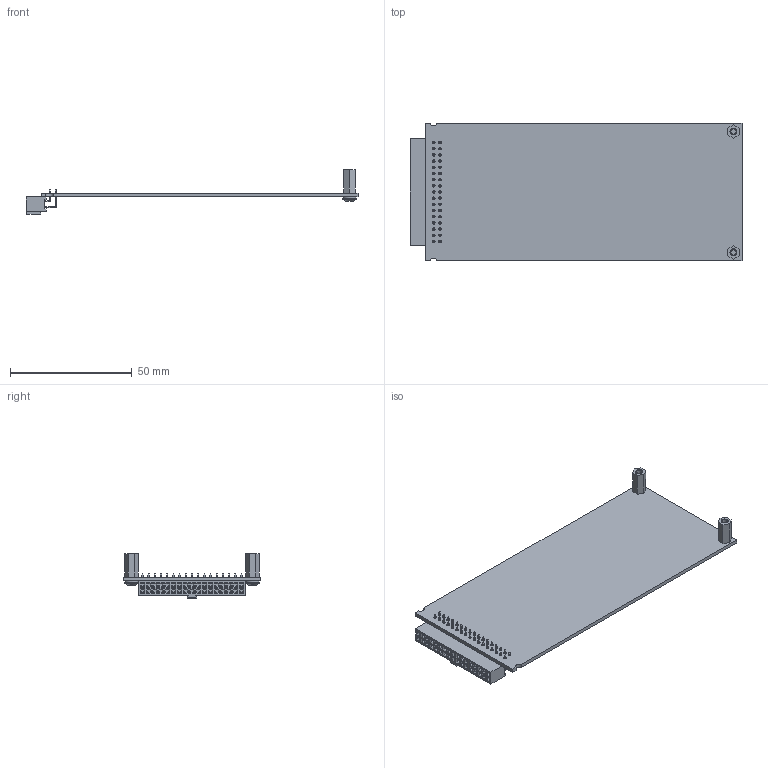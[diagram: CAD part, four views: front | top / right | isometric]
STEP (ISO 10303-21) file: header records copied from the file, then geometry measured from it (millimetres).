
FILE_DESCRIPTION((''),'2;1');
FILE_NAME('CCA_MXP_MINI_01_ASM','2016-08-01T',('llai'),(''),'CREO PARAMETRIC BY PTC INC, 2015380','CREO PARAMETRIC BY PTC INC, 2015380','');
FILE_SCHEMA(('CONFIG_CONTROL_DESIGN'));
Length unit declared in the file: inch
Products named in the file (5): PCB_MXP_MINI_SINGLE_01; CONN_RCPT_2X17_RA_TH_KEY; STANDOFF_HEX_F-F_SS_4-40; PNH_PHIL_440X0250_NYL; CCA_MXP_MINI_01_ASM
Assembly tree (6 placements, depth 2):
  CCA_MXP_MINI_01_ASM
    PCB_MXP_MINI_SINGLE_01
    CONN_RCPT_2X17_RA_TH_KEY
    STANDOFF_HEX_F-F_SS_4-40  x2
    PNH_PHIL_440X0250_NYL  x2
Bounding box: 136.33 x 56.64 x 18.2 mm (x, y, z)
Volume: 13895.8 mm3; surface area: 19309 mm2
Topology: 6 solids, 8 shells, 893 faces, 2269 edges, 1418 vertices
Faces by surface type: plane 687, cylinder 158, bspline 40, torus 4, sphere 4
Entity records: 25284 total; most frequent: CARTESIAN_POINT 4807, ORIENTED_EDGE 4202, DIRECTION 4047, EDGE_CURVE 2103, VECTOR 1747, LINE 1747, VERTEX_POINT 1364, AXIS2_PLACEMENT_3D 1150
